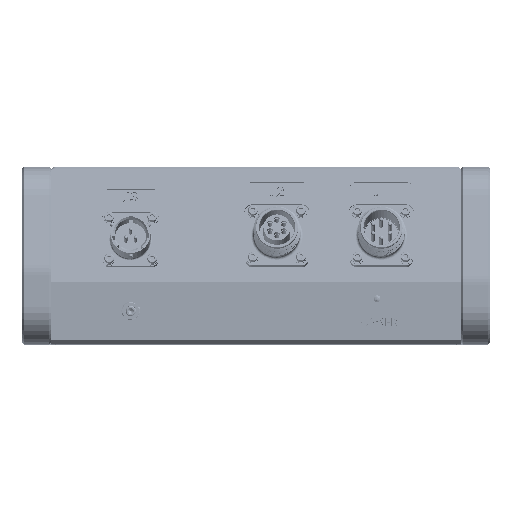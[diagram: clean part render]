
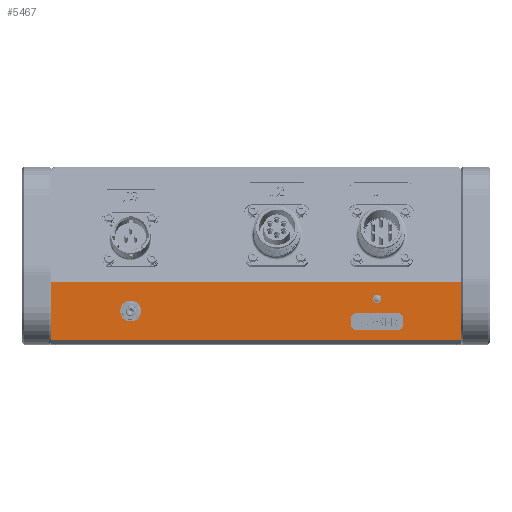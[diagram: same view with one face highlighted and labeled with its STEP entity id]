
A CAD part, top view. The second image highlights one B-rep face of the part: STEP entity #5467.
In plain terms, the highlighted planar face has unit normal (0, 0, 1).
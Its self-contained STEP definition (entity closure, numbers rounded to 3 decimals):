
#1389 = EDGE_CURVE ( 'NONE', #4406, #94243, #5872, .T. ) ;
#2524 = EDGE_CURVE ( 'NONE', #27060, #41537, #60473, .T. ) ;
#3454 = ORIENTED_EDGE ( 'NONE', *, *, #52206, .T. ) ;
#4406 = VERTEX_POINT ( 'NONE', #12976 ) ;
#4645 = CARTESIAN_POINT ( 'NONE',  ( -97.99, 2., 138. ) ) ;
#4924 = LINE ( 'NONE', #99578, #50048 ) ;
#5467 = ADVANCED_FACE ( 'NONE', ( #85890, #69268, #29763, #70806 ), #61481, .F. ) ;
#5872 = LINE ( 'NONE', #22547, #20143 ) ;
#6576 = CIRCLE ( 'NONE', #78008, 2.5 ) ;
#7562 = CARTESIAN_POINT ( 'NONE',  ( 59.95, 21.85, 138. ) ) ;
#8025 = ORIENTED_EDGE ( 'NONE', *, *, #1389, .T. ) ;
#8809 = EDGE_LOOP ( 'NONE', ( #8025, #82907, #64872, #32204 ) ) ;
#9093 = ORIENTED_EDGE ( 'NONE', *, *, #66023, .F. ) ;
#9690 = EDGE_LOOP ( 'NONE', ( #3454, #33915 ) ) ;
#11100 = VERTEX_POINT ( 'NONE', #12172 ) ;
#11195 = VECTOR ( 'NONE', #75712, 1000. ) ;
#12136 = AXIS2_PLACEMENT_3D ( 'NONE', #90193, #56467, #81362 ) ;
#12172 = CARTESIAN_POINT ( 'NONE',  ( 67.95, 14.925, 138. ) ) ;
#12976 = CARTESIAN_POINT ( 'NONE',  ( -97.99, 30., 138. ) ) ;
#13574 = DIRECTION ( 'NONE',  ( -1., 0., 0. ) ) ;
#14667 = DIRECTION ( 'NONE',  ( 0., 0., -1. ) ) ;
#15994 = VERTEX_POINT ( 'NONE', #68768 ) ;
#16076 = VERTEX_POINT ( 'NONE', #92705 ) ;
#17299 = CARTESIAN_POINT ( 'NONE',  ( 98., 30., 138. ) ) ;
#17877 = CARTESIAN_POINT ( 'NONE',  ( 67.95, 9.425, 138. ) ) ;
#18515 = DIRECTION ( 'NONE',  ( 0., -1., 0. ) ) ;
#19038 = CARTESIAN_POINT ( 'NONE',  ( 67.95, 12.425, 138. ) ) ;
#20143 = VECTOR ( 'NONE', #84922, 1000. ) ;
#20636 = CIRCLE ( 'NONE', #100333, 2.5 ) ;
#20887 = CARTESIAN_POINT ( 'NONE',  ( -65., 16., 138. ) ) ;
#22547 = CARTESIAN_POINT ( 'NONE',  ( -97.99, 85., 138. ) ) ;
#22574 = EDGE_CURVE ( 'NONE', #94243, #15994, #48948, .T. ) ;
#22921 = VECTOR ( 'NONE', #96391, 1000. ) ;
#23295 = DIRECTION ( 'NONE',  ( 1., 0., 0. ) ) ;
#24524 = DIRECTION ( 'NONE',  ( 1., 0., 0. ) ) ;
#24899 = VECTOR ( 'NONE', #25414, 1000. ) ;
#25414 = DIRECTION ( 'NONE',  ( -1., 0., 0. ) ) ;
#27060 = VERTEX_POINT ( 'NONE', #71851 ) ;
#27971 = AXIS2_PLACEMENT_3D ( 'NONE', #85087, #44046, #53404 ) ;
#28032 = VERTEX_POINT ( 'NONE', #34011 ) ;
#28369 = DIRECTION ( 'NONE',  ( 1., 0., 0. ) ) ;
#28662 = VERTEX_POINT ( 'NONE', #75958 ) ;
#28945 = AXIS2_PLACEMENT_3D ( 'NONE', #17877, #58445, #50126 ) ;
#29440 = EDGE_CURVE ( 'NONE', #28032, #16076, #36209, .T. ) ;
#29763 = FACE_BOUND ( 'NONE', #9690, .T. ) ;
#30944 = DIRECTION ( 'NONE',  ( 1., 0., 0. ) ) ;
#32204 = ORIENTED_EDGE ( 'NONE', *, *, #79100, .T. ) ;
#32267 = AXIS2_PLACEMENT_3D ( 'NONE', #57879, #57376, #89568 ) ;
#33120 = EDGE_LOOP ( 'NONE', ( #93108, #56288 ) ) ;
#33483 = LINE ( 'NONE', #66218, #22921 ) ;
#33710 = CARTESIAN_POINT ( 'NONE',  ( -98., 30., 138. ) ) ;
#33915 = ORIENTED_EDGE ( 'NONE', *, *, #40508, .T. ) ;
#34011 = CARTESIAN_POINT ( 'NONE',  ( 70.45, 9.425, 138. ) ) ;
#36169 = CARTESIAN_POINT ( 'NONE',  ( 47.95, 6.925, 138. ) ) ;
#36209 = LINE ( 'NONE', #90289, #11195 ) ;
#36988 = DIRECTION ( 'NONE',  ( 0., 0., -1. ) ) ;
#37451 = AXIS2_PLACEMENT_3D ( 'NONE', #99384, #36988, #13574 ) ;
#37659 = CARTESIAN_POINT ( 'NONE',  ( 55.95, 21.85, 138. ) ) ;
#38443 = VERTEX_POINT ( 'NONE', #99759 ) ;
#40432 = VECTOR ( 'NONE', #24524, 1000. ) ;
#40508 = EDGE_CURVE ( 'NONE', #40960, #95505, #89333, .T. ) ;
#40960 = VERTEX_POINT ( 'NONE', #37659 ) ;
#41537 = VERTEX_POINT ( 'NONE', #71302 ) ;
#42733 = CARTESIAN_POINT ( 'NONE',  ( 47.95, 14.925, 138. ) ) ;
#43711 = EDGE_CURVE ( 'NONE', #62770, #15994, #4924, .T. ) ;
#44046 = DIRECTION ( 'NONE',  ( 0., 0., -1. ) ) ;
#45489 = AXIS2_PLACEMENT_3D ( 'NONE', #95896, #86047, #30944 ) ;
#45771 = CIRCLE ( 'NONE', #37451, 2. ) ;
#45871 = DIRECTION ( 'NONE',  ( -1., 0., 0. ) ) ;
#48432 = CARTESIAN_POINT ( 'NONE',  ( -98., 2., 138. ) ) ;
#48712 = VERTEX_POINT ( 'NONE', #42733 ) ;
#48755 = AXIS2_PLACEMENT_3D ( 'NONE', #85371, #14667, #45871 ) ;
#48948 = LINE ( 'NONE', #48432, #40432 ) ;
#49991 = ORIENTED_EDGE ( 'NONE', *, *, #29440, .F. ) ;
#50048 = VECTOR ( 'NONE', #18515, 1000. ) ;
#50126 = DIRECTION ( 'NONE',  ( 1., 0., 0. ) ) ;
#50477 = VECTOR ( 'NONE', #28369, 1000. ) ;
#50765 = DIRECTION ( 'NONE',  ( -1., 0., 0. ) ) ;
#52206 = EDGE_CURVE ( 'NONE', #95505, #40960, #45771, .T. ) ;
#52246 = VERTEX_POINT ( 'NONE', #20887 ) ;
#53404 = DIRECTION ( 'NONE',  ( -1., 0., 0. ) ) ;
#56288 = ORIENTED_EDGE ( 'NONE', *, *, #80213, .F. ) ;
#56467 = DIRECTION ( 'NONE',  ( 0., 0., 1. ) ) ;
#57144 = LINE ( 'NONE', #33710, #101821 ) ;
#57376 = DIRECTION ( 'NONE',  ( 0., 0., 1. ) ) ;
#57879 = CARTESIAN_POINT ( 'NONE',  ( 47.95, 9.425, 138. ) ) ;
#58445 = DIRECTION ( 'NONE',  ( 0., 0., 1. ) ) ;
#60473 = CIRCLE ( 'NONE', #32267, 2.5 ) ;
#61481 = PLANE ( 'NONE',  #48755 ) ;
#62141 = CIRCLE ( 'NONE', #45489, 5. ) ;
#62770 = VERTEX_POINT ( 'NONE', #17299 ) ;
#63941 = ORIENTED_EDGE ( 'NONE', *, *, #80418, .F. ) ;
#64872 = ORIENTED_EDGE ( 'NONE', *, *, #43711, .F. ) ;
#65427 = DIRECTION ( 'NONE',  ( -1., 0., 0. ) ) ;
#66023 = EDGE_CURVE ( 'NONE', #38443, #27060, #33483, .T. ) ;
#66218 = CARTESIAN_POINT ( 'NONE',  ( 45.45, 12.425, 138. ) ) ;
#67676 = EDGE_LOOP ( 'NONE', ( #88960, #99430, #49991, #63941, #79890, #92386, #9093, #87870 ) ) ;
#68413 = EDGE_CURVE ( 'NONE', #11100, #48712, #96634, .T. ) ;
#68768 = CARTESIAN_POINT ( 'NONE',  ( 98., 2., 138. ) ) ;
#69268 = FACE_BOUND ( 'NONE', #67676, .T. ) ;
#70806 = FACE_OUTER_BOUND ( 'NONE', #8809, .T. ) ;
#71097 = DIRECTION ( 'NONE',  ( 0., 0., 1. ) ) ;
#71302 = CARTESIAN_POINT ( 'NONE',  ( 47.95, 6.925, 138. ) ) ;
#71851 = CARTESIAN_POINT ( 'NONE',  ( 45.45, 9.425, 138. ) ) ;
#73751 = CIRCLE ( 'NONE', #28945, 2.5 ) ;
#74921 = EDGE_CURVE ( 'NONE', #48712, #38443, #6576, .T. ) ;
#75568 = VERTEX_POINT ( 'NONE', #89381 ) ;
#75712 = DIRECTION ( 'NONE',  ( 0., 1., 0. ) ) ;
#75958 = CARTESIAN_POINT ( 'NONE',  ( 67.95, 6.925, 138. ) ) ;
#78008 = AXIS2_PLACEMENT_3D ( 'NONE', #95534, #71097, #23295 ) ;
#78994 = CARTESIAN_POINT ( 'NONE',  ( 47.95, 14.925, 138. ) ) ;
#79100 = EDGE_CURVE ( 'NONE', #62770, #4406, #57144, .T. ) ;
#79890 = ORIENTED_EDGE ( 'NONE', *, *, #80125, .F. ) ;
#79945 = EDGE_CURVE ( 'NONE', #16076, #11100, #20636, .T. ) ;
#80125 = EDGE_CURVE ( 'NONE', #41537, #28662, #100080, .T. ) ;
#80213 = EDGE_CURVE ( 'NONE', #52246, #75568, #62141, .T. ) ;
#80418 = EDGE_CURVE ( 'NONE', #28662, #28032, #73751, .T. ) ;
#81362 = DIRECTION ( 'NONE',  ( 1., 0., 0. ) ) ;
#81846 = CIRCLE ( 'NONE', #12136, 5. ) ;
#82907 = ORIENTED_EDGE ( 'NONE', *, *, #22574, .T. ) ;
#82975 = DIRECTION ( 'NONE',  ( 0., 0., 1. ) ) ;
#84922 = DIRECTION ( 'NONE',  ( 0., -1., 0. ) ) ;
#85087 = CARTESIAN_POINT ( 'NONE',  ( 57.95, 21.85, 138. ) ) ;
#85371 = CARTESIAN_POINT ( 'NONE',  ( -98., 85., 138. ) ) ;
#85890 = FACE_BOUND ( 'NONE', #33120, .T. ) ;
#86047 = DIRECTION ( 'NONE',  ( 0., 0., 1. ) ) ;
#87870 = ORIENTED_EDGE ( 'NONE', *, *, #74921, .F. ) ;
#88960 = ORIENTED_EDGE ( 'NONE', *, *, #68413, .F. ) ;
#89333 = CIRCLE ( 'NONE', #27971, 2. ) ;
#89381 = CARTESIAN_POINT ( 'NONE',  ( -55., 16., 138. ) ) ;
#89568 = DIRECTION ( 'NONE',  ( 1., 0., 0. ) ) ;
#90193 = CARTESIAN_POINT ( 'NONE',  ( -60., 16., 138. ) ) ;
#90289 = CARTESIAN_POINT ( 'NONE',  ( 70.45, 12.425, 138. ) ) ;
#92386 = ORIENTED_EDGE ( 'NONE', *, *, #2524, .F. ) ;
#92705 = CARTESIAN_POINT ( 'NONE',  ( 70.45, 12.425, 138. ) ) ;
#93108 = ORIENTED_EDGE ( 'NONE', *, *, #95552, .F. ) ;
#94243 = VERTEX_POINT ( 'NONE', #4645 ) ;
#95505 = VERTEX_POINT ( 'NONE', #7562 ) ;
#95534 = CARTESIAN_POINT ( 'NONE',  ( 47.95, 12.425, 138. ) ) ;
#95552 = EDGE_CURVE ( 'NONE', #75568, #52246, #81846, .T. ) ;
#95896 = CARTESIAN_POINT ( 'NONE',  ( -60., 16., 138. ) ) ;
#96391 = DIRECTION ( 'NONE',  ( 0., -1., 0. ) ) ;
#96634 = LINE ( 'NONE', #78994, #24899 ) ;
#99384 = CARTESIAN_POINT ( 'NONE',  ( 57.95, 21.85, 138. ) ) ;
#99430 = ORIENTED_EDGE ( 'NONE', *, *, #79945, .F. ) ;
#99578 = CARTESIAN_POINT ( 'NONE',  ( 98., 85., 138. ) ) ;
#99759 = CARTESIAN_POINT ( 'NONE',  ( 45.45, 12.425, 138. ) ) ;
#100080 = LINE ( 'NONE', #36169, #50477 ) ;
#100333 = AXIS2_PLACEMENT_3D ( 'NONE', #19038, #82975, #50765 ) ;
#101821 = VECTOR ( 'NONE', #65427, 1000. ) ;
